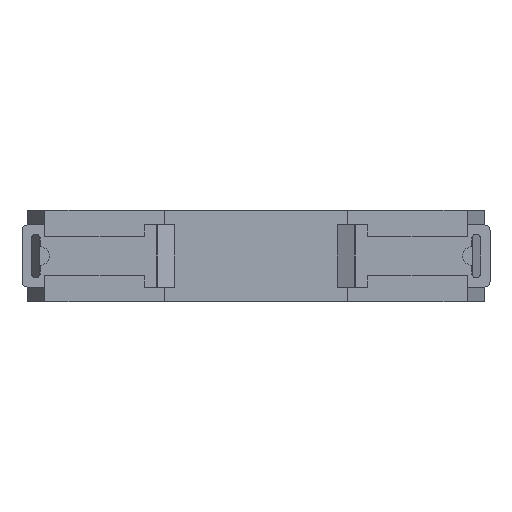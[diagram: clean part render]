
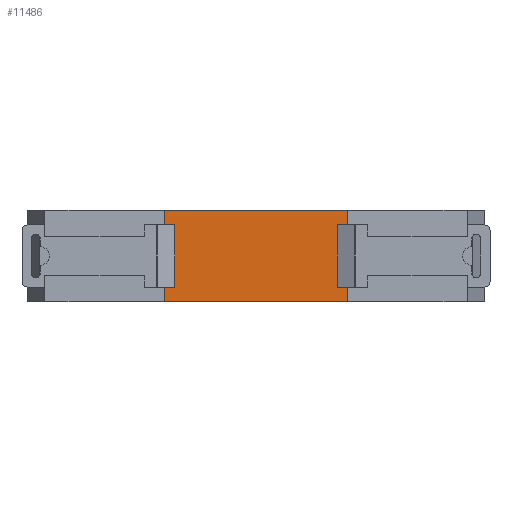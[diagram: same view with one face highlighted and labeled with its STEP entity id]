
A CAD part, left-side view. The second image highlights one B-rep face of the part: STEP entity #11486.
In plain terms, the highlighted planar face has unit normal (-1, 0, 0).
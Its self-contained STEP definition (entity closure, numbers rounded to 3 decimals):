
#568 = CARTESIAN_POINT ( 'NONE',  ( -60., -40.25, 18. ) ) ;
#583 = CARTESIAN_POINT ( 'NONE',  ( -60., -4.25, 18. ) ) ;
#635 = VERTEX_POINT ( 'NONE', #12993 ) ;
#751 = EDGE_CURVE ( 'NONE', #635, #7587, #5978, .T. ) ;
#922 = CARTESIAN_POINT ( 'NONE',  ( -60., -4.25, 18. ) ) ;
#1463 = ORIENTED_EDGE ( 'NONE', *, *, #11785, .F. ) ;
#1696 = CARTESIAN_POINT ( 'NONE',  ( -60., -4.25, 0. ) ) ;
#1876 = DIRECTION ( 'NONE',  ( 0., -1., 0. ) ) ;
#1969 = ORIENTED_EDGE ( 'NONE', *, *, #751, .T. ) ;
#4055 = VECTOR ( 'NONE', #1876, 1000. ) ;
#4107 = CARTESIAN_POINT ( 'NONE',  ( -60., -4.25, 0. ) ) ;
#4228 = VECTOR ( 'NONE', #7951, 1000. ) ;
#4764 = VERTEX_POINT ( 'NONE', #6845 ) ;
#5525 = DIRECTION ( 'NONE',  ( 1., 0., 0. ) ) ;
#5718 = ORIENTED_EDGE ( 'NONE', *, *, #9780, .F. ) ;
#5978 = LINE ( 'NONE', #922, #4228 ) ;
#6091 = CARTESIAN_POINT ( 'NONE',  ( -60., -4.25, 18. ) ) ;
#6270 = FACE_OUTER_BOUND ( 'NONE', #9046, .T. ) ;
#6286 = AXIS2_PLACEMENT_3D ( 'NONE', #583, #5525, #7497 ) ;
#6358 = DIRECTION ( 'NONE',  ( 0., -1., 0. ) ) ;
#6486 = VECTOR ( 'NONE', #7490, 1000. ) ;
#6845 = CARTESIAN_POINT ( 'NONE',  ( -60., -40.25, 0. ) ) ;
#6884 = LINE ( 'NONE', #4107, #11750 ) ;
#6959 = LINE ( 'NONE', #7407, #6486 ) ;
#7199 = LINE ( 'NONE', #6091, #4055 ) ;
#7407 = CARTESIAN_POINT ( 'NONE',  ( -60., -40.25, 18. ) ) ;
#7490 = DIRECTION ( 'NONE',  ( 0., 0., -1. ) ) ;
#7497 = DIRECTION ( 'NONE',  ( 0., 1., 0. ) ) ;
#7587 = VERTEX_POINT ( 'NONE', #1696 ) ;
#7951 = DIRECTION ( 'NONE',  ( 0., 0., -1. ) ) ;
#8058 = VERTEX_POINT ( 'NONE', #568 ) ;
#9046 = EDGE_LOOP ( 'NONE', ( #10749, #5718, #1463, #1969 ) ) ;
#9780 = EDGE_CURVE ( 'NONE', #8058, #4764, #6959, .T. ) ;
#10749 = ORIENTED_EDGE ( 'NONE', *, *, #12779, .T. ) ;
#11486 = ADVANCED_FACE ( 'NONE', ( #6270 ), #12581, .F. ) ;
#11750 = VECTOR ( 'NONE', #6358, 1000. ) ;
#11785 = EDGE_CURVE ( 'NONE', #635, #8058, #7199, .T. ) ;
#12581 = PLANE ( 'NONE',  #6286 ) ;
#12779 = EDGE_CURVE ( 'NONE', #7587, #4764, #6884, .T. ) ;
#12993 = CARTESIAN_POINT ( 'NONE',  ( -60., -4.25, 18. ) ) ;
